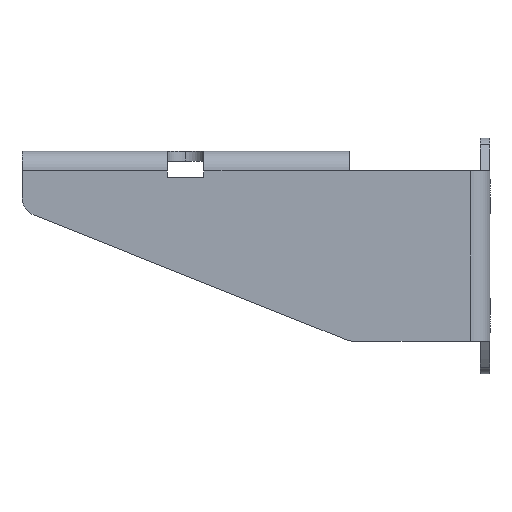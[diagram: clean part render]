
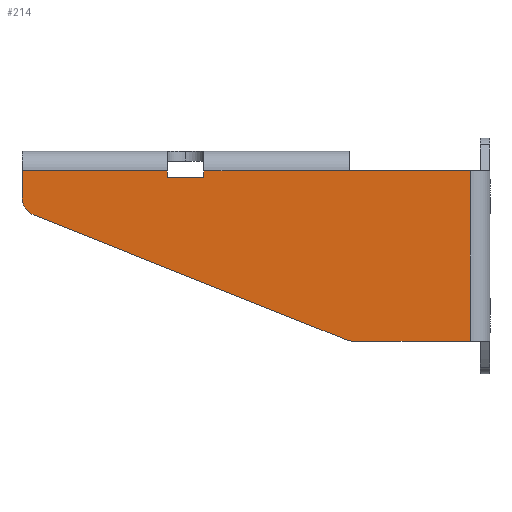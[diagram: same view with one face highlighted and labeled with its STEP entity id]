
A CAD part, left-side view. The second image highlights one B-rep face of the part: STEP entity #214.
In plain terms, the highlighted planar face has unit normal (-1, 0, 0).
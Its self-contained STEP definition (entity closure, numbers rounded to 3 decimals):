
#12 = CIRCLE ( 'NONE', #589, 2.75 ) ;
#51 = VERTEX_POINT ( 'NONE', #124 ) ;
#106 = VERTEX_POINT ( 'NONE', #1082 ) ;
#124 = CARTESIAN_POINT ( 'NONE',  ( 0., 47.8, -3. ) ) ;
#144 = DIRECTION ( 'NONE',  ( 0., 0., -1. ) ) ;
#159 = CARTESIAN_POINT ( 'NONE',  ( 0., 20., -3. ) ) ;
#168 = VERTEX_POINT ( 'NONE', #172 ) ;
#172 = CARTESIAN_POINT ( 'NONE',  ( 0., 1.5, -3. ) ) ;
#182 = LINE ( 'NONE', #2810, #734 ) ;
#188 = VERTEX_POINT ( 'NONE', #1917 ) ;
#214 = ADVANCED_FACE ( 'NONE', ( #1484 ), #3159, .F. ) ;
#219 = DIRECTION ( 'NONE',  ( 0., 1., 0. ) ) ;
#231 = VECTOR ( 'NONE', #1772, 1000. ) ;
#258 = ORIENTED_EDGE ( 'NONE', *, *, #2376, .T. ) ;
#340 = LINE ( 'NONE', #1668, #3367 ) ;
#358 = ORIENTED_EDGE ( 'NONE', *, *, #1735, .T. ) ;
#464 = DIRECTION ( 'NONE',  ( -1., 0., 0. ) ) ;
#467 = ORIENTED_EDGE ( 'NONE', *, *, #1444, .F. ) ;
#482 = DIRECTION ( 'NONE',  ( 0., 0., 1. ) ) ;
#499 = CARTESIAN_POINT ( 'NONE',  ( 0., 70., 0. ) ) ;
#534 = CARTESIAN_POINT ( 'NONE',  ( 0., 70., -29. ) ) ;
#546 = VERTEX_POINT ( 'NONE', #3628 ) ;
#589 = AXIS2_PLACEMENT_3D ( 'NONE', #2203, #2802, #2231 ) ;
#727 = CARTESIAN_POINT ( 'NONE',  ( 0., 73.103, -7.759 ) ) ;
#729 = ORIENTED_EDGE ( 'NONE', *, *, #1035, .T. ) ;
#734 = VECTOR ( 'NONE', #1070, 1000. ) ;
#740 = ORIENTED_EDGE ( 'NONE', *, *, #3221, .T. ) ;
#943 = CARTESIAN_POINT ( 'NONE',  ( 0., 70., -3. ) ) ;
#944 = VECTOR ( 'NONE', #3035, 1000. ) ;
#979 = ORIENTED_EDGE ( 'NONE', *, *, #2099, .F. ) ;
#1032 = DIRECTION ( 'NONE',  ( 0., 0., 1. ) ) ;
#1035 = EDGE_CURVE ( 'NONE', #168, #3419, #2309, .T. ) ;
#1070 = DIRECTION ( 'NONE',  ( 0., 1., 0. ) ) ;
#1080 = LINE ( 'NONE', #2853, #3043 ) ;
#1082 = CARTESIAN_POINT ( 'NONE',  ( 0., 19.47, -29. ) ) ;
#1183 = DIRECTION ( 'NONE',  ( 0., 0., 1. ) ) ;
#1284 = VECTOR ( 'NONE', #1742, 1000. ) ;
#1383 = CARTESIAN_POINT ( 'NONE',  ( 0., 70., -4. ) ) ;
#1384 = LINE ( 'NONE', #2775, #2302 ) ;
#1414 = LINE ( 'NONE', #1497, #231 ) ;
#1444 = EDGE_CURVE ( 'NONE', #3302, #2317, #340, .T. ) ;
#1484 = FACE_OUTER_BOUND ( 'NONE', #2818, .T. ) ;
#1497 = CARTESIAN_POINT ( 'NONE',  ( 0., 1.5, -29. ) ) ;
#1648 = ORIENTED_EDGE ( 'NONE', *, *, #3071, .T. ) ;
#1668 = CARTESIAN_POINT ( 'NONE',  ( 0., 70., 0. ) ) ;
#1689 = VERTEX_POINT ( 'NONE', #2377 ) ;
#1703 = EDGE_CURVE ( 'NONE', #2982, #51, #1384, .T. ) ;
#1735 = EDGE_CURVE ( 'NONE', #3310, #1689, #3767, .T. ) ;
#1742 = DIRECTION ( 'NONE',  ( 0., -1., 0. ) ) ;
#1764 = VERTEX_POINT ( 'NONE', #2885 ) ;
#1772 = DIRECTION ( 'NONE',  ( 0., 0., 1. ) ) ;
#1805 = DIRECTION ( 'NONE',  ( 0., 1., 0. ) ) ;
#1872 = CARTESIAN_POINT ( 'NONE',  ( 0., 70., -7.138 ) ) ;
#1875 = VECTOR ( 'NONE', #2846, 1000. ) ;
#1902 = ORIENTED_EDGE ( 'NONE', *, *, #2399, .T. ) ;
#1917 = CARTESIAN_POINT ( 'NONE',  ( 0., 1.5, -29. ) ) ;
#1918 = EDGE_CURVE ( 'NONE', #51, #2317, #1080, .T. ) ;
#1964 = DIRECTION ( 'NONE',  ( 1., 0., 0. ) ) ;
#1999 = ORIENTED_EDGE ( 'NONE', *, *, #3510, .T. ) ;
#2023 = CARTESIAN_POINT ( 'NONE',  ( 0., 42.2, -4. ) ) ;
#2099 = EDGE_CURVE ( 'NONE', #1764, #546, #2199, .T. ) ;
#2199 = LINE ( 'NONE', #2023, #2670 ) ;
#2203 = CARTESIAN_POINT ( 'NONE',  ( 0., 67.25, -7.138 ) ) ;
#2212 = CARTESIAN_POINT ( 'NONE',  ( 0., 47.8, -4. ) ) ;
#2231 = DIRECTION ( 'NONE',  ( 0., 0., -1. ) ) ;
#2302 = VECTOR ( 'NONE', #1032, 1000. ) ;
#2309 = LINE ( 'NONE', #2963, #2452 ) ;
#2317 = VERTEX_POINT ( 'NONE', #943 ) ;
#2358 = AXIS2_PLACEMENT_3D ( 'NONE', #3660, #464, #144 ) ;
#2376 = EDGE_CURVE ( 'NONE', #1689, #106, #3617, .T. ) ;
#2377 = CARTESIAN_POINT ( 'NONE',  ( 0., 20.492, -28.803 ) ) ;
#2399 = EDGE_CURVE ( 'NONE', #3302, #3310, #12, .T. ) ;
#2437 = ORIENTED_EDGE ( 'NONE', *, *, #1703, .T. ) ;
#2452 = VECTOR ( 'NONE', #1805, 1000. ) ;
#2485 = CARTESIAN_POINT ( 'NONE',  ( 0., 68.271, -9.691 ) ) ;
#2670 = VECTOR ( 'NONE', #1183, 1000. ) ;
#2715 = LINE ( 'NONE', #534, #1284 ) ;
#2775 = CARTESIAN_POINT ( 'NONE',  ( 0., 47.8, -4. ) ) ;
#2802 = DIRECTION ( 'NONE',  ( -1., 0., 0. ) ) ;
#2810 = CARTESIAN_POINT ( 'NONE',  ( 0., 70., -3. ) ) ;
#2818 = EDGE_LOOP ( 'NONE', ( #3575, #2437, #3490, #467, #1902, #358, #258, #1648, #740, #729, #1999, #979 ) ) ;
#2846 = DIRECTION ( 'NONE',  ( 0., -1., 0. ) ) ;
#2853 = CARTESIAN_POINT ( 'NONE',  ( 0., 70., -3. ) ) ;
#2885 = CARTESIAN_POINT ( 'NONE',  ( 0., 42.2, -4. ) ) ;
#2963 = CARTESIAN_POINT ( 'NONE',  ( 0., 70., -3. ) ) ;
#2982 = VERTEX_POINT ( 'NONE', #2212 ) ;
#3035 = DIRECTION ( 'NONE',  ( 0., -0.928, -0.371 ) ) ;
#3043 = VECTOR ( 'NONE', #219, 1000. ) ;
#3071 = EDGE_CURVE ( 'NONE', #106, #188, #2715, .T. ) ;
#3159 = PLANE ( 'NONE',  #3725 ) ;
#3221 = EDGE_CURVE ( 'NONE', #188, #168, #1414, .T. ) ;
#3302 = VERTEX_POINT ( 'NONE', #1872 ) ;
#3310 = VERTEX_POINT ( 'NONE', #2485 ) ;
#3367 = VECTOR ( 'NONE', #482, 1000. ) ;
#3419 = VERTEX_POINT ( 'NONE', #159 ) ;
#3434 = LINE ( 'NONE', #1383, #1875 ) ;
#3449 = EDGE_CURVE ( 'NONE', #2982, #1764, #3434, .T. ) ;
#3490 = ORIENTED_EDGE ( 'NONE', *, *, #1918, .T. ) ;
#3510 = EDGE_CURVE ( 'NONE', #3419, #546, #182, .T. ) ;
#3575 = ORIENTED_EDGE ( 'NONE', *, *, #3449, .F. ) ;
#3617 = CIRCLE ( 'NONE', #2358, 2.75 ) ;
#3628 = CARTESIAN_POINT ( 'NONE',  ( 0., 42.2, -3. ) ) ;
#3660 = CARTESIAN_POINT ( 'NONE',  ( 0., 19.47, -26.25 ) ) ;
#3725 = AXIS2_PLACEMENT_3D ( 'NONE', #499, #1964, #3765 ) ;
#3765 = DIRECTION ( 'NONE',  ( 0., 0., -1. ) ) ;
#3767 = LINE ( 'NONE', #727, #944 ) ;
